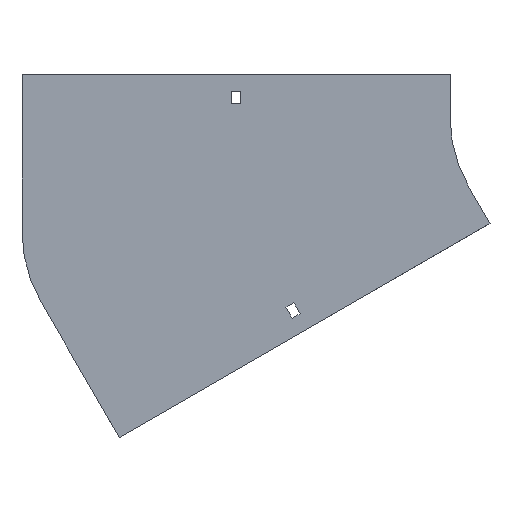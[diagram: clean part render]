
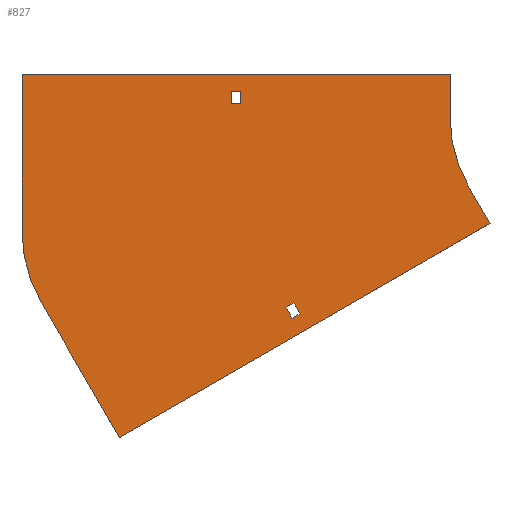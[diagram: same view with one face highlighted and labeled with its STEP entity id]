
A CAD part, front view. The second image highlights one B-rep face of the part: STEP entity #827.
In plain terms, the highlighted planar face has unit normal (0, -1, 0).
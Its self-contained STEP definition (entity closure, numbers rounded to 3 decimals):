
#6 = ORIENTED_EDGE ( 'NONE', *, *, #102, .F. ) ;
#12 = CARTESIAN_POINT ( 'NONE',  ( -255.25, 0., 9. ) ) ;
#16 = AXIS2_PLACEMENT_3D ( 'NONE', #527, #1898, #1597 ) ;
#76 = VECTOR ( 'NONE', #1240, 1000. ) ;
#86 = FACE_OUTER_BOUND ( 'NONE', #647, .T. ) ;
#92 = EDGE_CURVE ( 'NONE', #1140, #1465, #1448, .T. ) ;
#96 = CARTESIAN_POINT ( 'NONE',  ( -100., 0., 30. ) ) ;
#102 = EDGE_CURVE ( 'NONE', #663, #970, #1238, .T. ) ;
#105 = VERTEX_POINT ( 'NONE', #1718 ) ;
#109 = CARTESIAN_POINT ( 'NONE',  ( -255.25, 0., 18. ) ) ;
#137 = CARTESIAN_POINT ( 'NONE',  ( -71.603, 0., -75.981 ) ) ;
#139 = VERTEX_POINT ( 'NONE', #969 ) ;
#157 = VERTEX_POINT ( 'NONE', #544 ) ;
#173 = LINE ( 'NONE', #96, #1463 ) ;
#196 = LINE ( 'NONE', #373, #1551 ) ;
#219 = ORIENTED_EDGE ( 'NONE', *, *, #1271, .T. ) ;
#222 = ORIENTED_EDGE ( 'NONE', *, *, #1306, .F. ) ;
#226 = ORIENTED_EDGE ( 'NONE', *, *, #1278, .F. ) ;
#227 = ORIENTED_EDGE ( 'NONE', *, *, #454, .F. ) ;
#234 = ORIENTED_EDGE ( 'NONE', *, *, #92, .T. ) ;
#235 = LINE ( 'NONE', #656, #1712 ) ;
#249 = DIRECTION ( 'NONE',  ( 0., 0., -1. ) ) ;
#256 = DIRECTION ( 'NONE',  ( 0.5, 0., -0.866 ) ) ;
#296 = LINE ( 'NONE', #12, #1910 ) ;
#304 = ORIENTED_EDGE ( 'NONE', *, *, #1903, .F. ) ;
#341 = CARTESIAN_POINT ( 'NONE',  ( -255.25, 0., 9. ) ) ;
#360 = DIRECTION ( 'NONE',  ( 0., -1., 0. ) ) ;
#361 = CARTESIAN_POINT ( 'NONE',  ( -216.553, 0., -135.419 ) ) ;
#373 = CARTESIAN_POINT ( 'NONE',  ( -216.553, 0., -135.419 ) ) ;
#389 = DIRECTION ( 'NONE',  ( 0., 0., -1. ) ) ;
#394 = VECTOR ( 'NONE', #1917, 1000. ) ;
#407 = ORIENTED_EDGE ( 'NONE', *, *, #1868, .F. ) ;
#416 = DIRECTION ( 'NONE',  ( 0., -1., 0. ) ) ;
#423 = DIRECTION ( 'NONE',  ( -0.866, 0., -0.5 ) ) ;
#429 = VECTOR ( 'NONE', #256, 1000. ) ;
#454 = EDGE_CURVE ( 'NONE', #1459, #1311, #1874, .T. ) ;
#457 = VECTOR ( 'NONE', #1373, 1000. ) ;
#473 = EDGE_CURVE ( 'NONE', #1443, #1320, #1276, .T. ) ;
#477 = LINE ( 'NONE', #1845, #457 ) ;
#521 = DIRECTION ( 'NONE',  ( 1., 0., 0. ) ) ;
#527 = CARTESIAN_POINT ( 'NONE',  ( -304., 0., -81.457 ) ) ;
#531 = EDGE_CURVE ( 'NONE', #999, #157, #1154, .T. ) ;
#532 = CARTESIAN_POINT ( 'NONE',  ( -86.603, 0., -50. ) ) ;
#543 = DIRECTION ( 'NONE',  ( -0.866, 0., -0.5 ) ) ;
#544 = CARTESIAN_POINT ( 'NONE',  ( -334.874, 0., -227.981 ) ) ;
#558 = CARTESIAN_POINT ( 'NONE',  ( -216.553, 0., -135.419 ) ) ;
#564 = CARTESIAN_POINT ( 'NONE',  ( -86.603, 0., -50. ) ) ;
#627 = DIRECTION ( 'NONE',  ( 0., 0., 1. ) ) ;
#646 = EDGE_CURVE ( 'NONE', #1872, #1140, #296, .T. ) ;
#647 = EDGE_LOOP ( 'NONE', ( #1786, #1805, #227, #222, #1236, #407, #6, #1091 ) ) ;
#649 = DIRECTION ( 'NONE',  ( 0.5, 0., -0.866 ) ) ;
#656 = CARTESIAN_POINT ( 'NONE',  ( -404., 0., 30. ) ) ;
#663 = VERTEX_POINT ( 'NONE', #1356 ) ;
#665 = CARTESIAN_POINT ( 'NONE',  ( -390.603, 0., -131.457 ) ) ;
#683 = LINE ( 'NONE', #1281, #1935 ) ;
#687 = LINE ( 'NONE', #1285, #1581 ) ;
#799 = EDGE_CURVE ( 'NONE', #1685, #663, #173, .T. ) ;
#806 = EDGE_CURVE ( 'NONE', #105, #1685, #235, .T. ) ;
#818 = AXIS2_PLACEMENT_3D ( 'NONE', #1714, #360, #249 ) ;
#827 = ADVANCED_FACE ( 'NONE', ( #975, #86, #1725 ), #1284, .T. ) ;
#862 = EDGE_LOOP ( 'NONE', ( #1145, #234, #1112, #219 ) ) ;
#897 = VERTEX_POINT ( 'NONE', #956 ) ;
#920 = CARTESIAN_POINT ( 'NONE',  ( -255.25, 0., 18. ) ) ;
#956 = CARTESIAN_POINT ( 'NONE',  ( -248.75, 0., 9. ) ) ;
#969 = CARTESIAN_POINT ( 'NONE',  ( -212.053, 0., -143.213 ) ) ;
#970 = VERTEX_POINT ( 'NONE', #564 ) ;
#975 = FACE_BOUND ( 'NONE', #862, .T. ) ;
#999 = VERTEX_POINT ( 'NONE', #137 ) ;
#1011 = VECTOR ( 'NONE', #423, 1000. ) ;
#1091 = ORIENTED_EDGE ( 'NONE', *, *, #799, .F. ) ;
#1112 = ORIENTED_EDGE ( 'NONE', *, *, #1366, .T. ) ;
#1122 = CARTESIAN_POINT ( 'NONE',  ( -210.924, 0., -132.169 ) ) ;
#1125 = DIRECTION ( 'NONE',  ( 0., 0., -1. ) ) ;
#1136 = VECTOR ( 'NONE', #543, 1000. ) ;
#1140 = VERTEX_POINT ( 'NONE', #920 ) ;
#1145 = ORIENTED_EDGE ( 'NONE', *, *, #646, .T. ) ;
#1148 = ORIENTED_EDGE ( 'NONE', *, *, #473, .F. ) ;
#1154 = LINE ( 'NONE', #1174, #1011 ) ;
#1174 = CARTESIAN_POINT ( 'NONE',  ( -71.603, 0., -75.981 ) ) ;
#1205 = CARTESIAN_POINT ( 'NONE',  ( -100., 0., 30. ) ) ;
#1218 = CARTESIAN_POINT ( 'NONE',  ( -206.424, 0., -139.963 ) ) ;
#1230 = LINE ( 'NONE', #341, #1873 ) ;
#1236 = ORIENTED_EDGE ( 'NONE', *, *, #531, .F. ) ;
#1238 = CIRCLE ( 'NONE', #1880, 100. ) ;
#1240 = DIRECTION ( 'NONE',  ( -0.5, 0., 0.866 ) ) ;
#1249 = DIRECTION ( 'NONE',  ( 1., 0., 0. ) ) ;
#1250 = LINE ( 'NONE', #1417, #76 ) ;
#1271 = EDGE_CURVE ( 'NONE', #897, #1872, #1230, .T. ) ;
#1276 = LINE ( 'NONE', #558, #1136 ) ;
#1278 = EDGE_CURVE ( 'NONE', #1320, #139, #196, .T. ) ;
#1281 = CARTESIAN_POINT ( 'NONE',  ( -210.924, 0., -132.169 ) ) ;
#1284 = PLANE ( 'NONE',  #818 ) ;
#1285 = CARTESIAN_POINT ( 'NONE',  ( -212.053, 0., -143.213 ) ) ;
#1306 = EDGE_CURVE ( 'NONE', #157, #1459, #1250, .T. ) ;
#1311 = VERTEX_POINT ( 'NONE', #1559 ) ;
#1320 = VERTEX_POINT ( 'NONE', #361 ) ;
#1338 = VERTEX_POINT ( 'NONE', #1218 ) ;
#1356 = CARTESIAN_POINT ( 'NONE',  ( -100., 0., 0. ) ) ;
#1366 = EDGE_CURVE ( 'NONE', #1465, #897, #1879, .T. ) ;
#1373 = DIRECTION ( 'NONE',  ( 0., 0., 1. ) ) ;
#1376 = DIRECTION ( 'NONE',  ( -1., 0., 0. ) ) ;
#1417 = CARTESIAN_POINT ( 'NONE',  ( -334.874, 0., -227.981 ) ) ;
#1426 = CARTESIAN_POINT ( 'NONE',  ( -248.75, 0., 18. ) ) ;
#1443 = VERTEX_POINT ( 'NONE', #1122 ) ;
#1448 = LINE ( 'NONE', #109, #1884 ) ;
#1459 = VERTEX_POINT ( 'NONE', #665 ) ;
#1463 = VECTOR ( 'NONE', #389, 1000. ) ;
#1465 = VERTEX_POINT ( 'NONE', #1426 ) ;
#1477 = EDGE_CURVE ( 'NONE', #139, #1338, #687, .T. ) ;
#1551 = VECTOR ( 'NONE', #649, 1000. ) ;
#1559 = CARTESIAN_POINT ( 'NONE',  ( -404., 0., -81.457 ) ) ;
#1563 = CARTESIAN_POINT ( 'NONE',  ( -255.25, 0., 9. ) ) ;
#1581 = VECTOR ( 'NONE', #1897, 1000. ) ;
#1582 = ORIENTED_EDGE ( 'NONE', *, *, #1477, .F. ) ;
#1597 = DIRECTION ( 'NONE',  ( 0., 0., 1. ) ) ;
#1604 = CARTESIAN_POINT ( 'NONE',  ( -248.75, 0., 9. ) ) ;
#1685 = VERTEX_POINT ( 'NONE', #1205 ) ;
#1712 = VECTOR ( 'NONE', #1249, 1000. ) ;
#1714 = CARTESIAN_POINT ( 'NONE',  ( 0., 0., 0. ) ) ;
#1718 = CARTESIAN_POINT ( 'NONE',  ( -404., 0., 30. ) ) ;
#1719 = EDGE_CURVE ( 'NONE', #1311, #105, #477, .T. ) ;
#1722 = LINE ( 'NONE', #532, #429 ) ;
#1725 = FACE_BOUND ( 'NONE', #1790, .T. ) ;
#1764 = CARTESIAN_POINT ( 'NONE',  ( 0., 0., 0. ) ) ;
#1786 = ORIENTED_EDGE ( 'NONE', *, *, #806, .F. ) ;
#1790 = EDGE_LOOP ( 'NONE', ( #1582, #226, #1148, #304 ) ) ;
#1805 = ORIENTED_EDGE ( 'NONE', *, *, #1719, .F. ) ;
#1845 = CARTESIAN_POINT ( 'NONE',  ( -404., 0., -81.457 ) ) ;
#1868 = EDGE_CURVE ( 'NONE', #970, #999, #1722, .T. ) ;
#1872 = VERTEX_POINT ( 'NONE', #1563 ) ;
#1873 = VECTOR ( 'NONE', #1376, 1000. ) ;
#1874 = CIRCLE ( 'NONE', #16, 100. ) ;
#1879 = LINE ( 'NONE', #1604, #394 ) ;
#1880 = AXIS2_PLACEMENT_3D ( 'NONE', #1764, #416, #1125 ) ;
#1884 = VECTOR ( 'NONE', #521, 1000. ) ;
#1893 = DIRECTION ( 'NONE',  ( -0.5, 0., 0.866 ) ) ;
#1897 = DIRECTION ( 'NONE',  ( 0.866, 0., 0.5 ) ) ;
#1898 = DIRECTION ( 'NONE',  ( 0., 1., 0. ) ) ;
#1903 = EDGE_CURVE ( 'NONE', #1338, #1443, #683, .T. ) ;
#1910 = VECTOR ( 'NONE', #627, 1000. ) ;
#1917 = DIRECTION ( 'NONE',  ( 0., 0., -1. ) ) ;
#1935 = VECTOR ( 'NONE', #1893, 1000. ) ;
